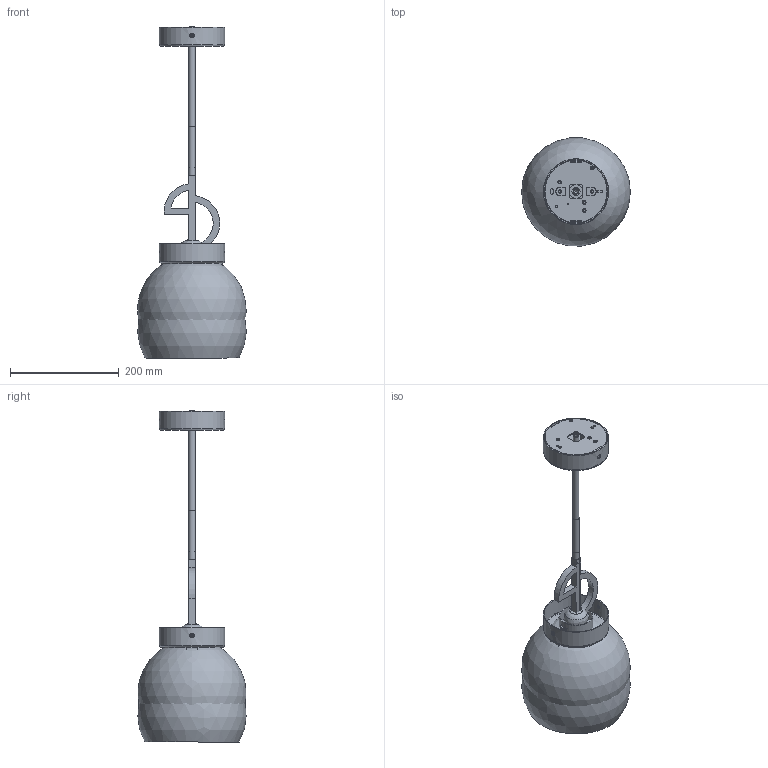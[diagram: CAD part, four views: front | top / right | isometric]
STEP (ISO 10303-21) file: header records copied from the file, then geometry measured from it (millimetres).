
FILE_DESCRIPTION( ( 'Unknown' ), '1' );
FILE_NAME( '//MMS001/Pubblica/PROGETTI MM LAMPADARI/7415 MYA/3D/7415SOSPENSIONETUTTOVETRO.stp', 'Unknown', ( 'Unknown' ), ( 'Unknown' ), 'XStep 1.0', 'Unknown', ' ' );
FILE_SCHEMA( ( 'automotive_design' ) );
Length unit declared in the file: millimetre
Products named in the file (15): Assem1; Assem2; 400231108 CAPPELLOTTO E14 BIANCO; 400233113 CAMICIA E14 BIANCA FILETTATA; 400230076 LAMPADINA E14 5,7W PARATHOM OSRAM; 7415C033 BRACCIO; 400103564 SCATOLA FE D 64x33 15-10; 7415C015 CUPOLA; 400104025 TUBETTO FILETTATO D9,5 L=25; 7415C035 ROSONE CIRCOLARE; 7415C009 ALLUNGA 250MM; 7415C037 OMEGA SU STAFFA; 400109001 RONDELLA DENTATA M10; 400108502 DADO M10x1; 7415C045 STAFFA A MURO D.114 OPERA
Bounding box: 199.84 x 198.73 x 610.2 mm (x, y, z)
Volume: 1049099.6 mm3; surface area: 691172.1 mm2
Topology: 30 solids, 30 shells, 1300 faces, 3428 edges, 2226 vertices
Faces by surface type: plane 739, cylinder 307, torus 103, cone 98, bspline 46, sphere 7
Full cylindrical faces by diameter (mm): 1.567 x3, 2 x3, 3 x5, 3.242 x4, 4 x10, 4.5 x4, 5.5 x4, 6 x4, 8 x5, 8.917 x10, 10 x3, 10.25 x4, 10.5 x2, 12 x2, 13.044 x18, 14 x2, 15 x2, 16 x3, 16.211 x3, 18.985 x3, 20 x3, 22.5 x15, 28 x3, 31 x2, 60 x2, 62 x2, 117 x2, 120 x2
Entity records: 19745 total; most frequent: CARTESIAN_POINT 6575, DIRECTION 2567, ORIENTED_EDGE 2388, EDGE_CURVE 1194, AXIS2_PLACEMENT_3D 967, VERTEX_POINT 835, EDGE_LOOP 676, LINE 633
